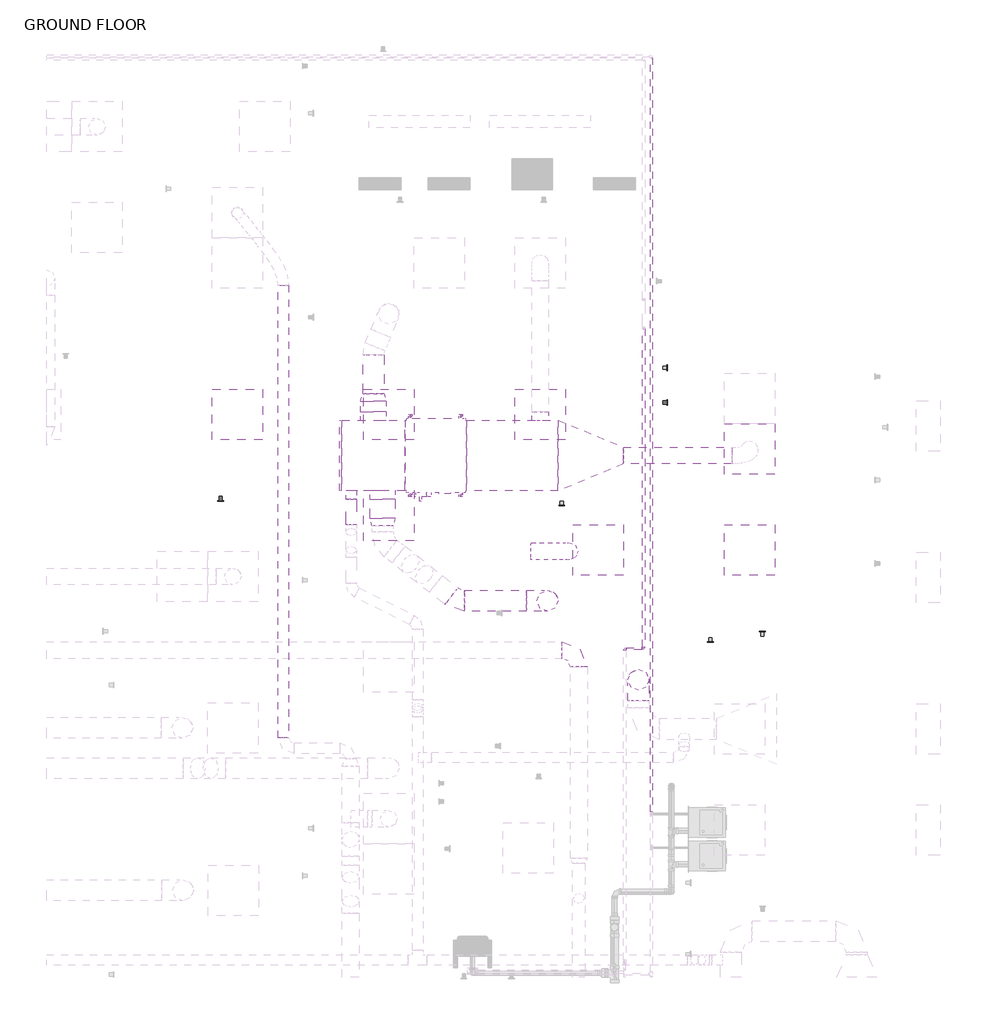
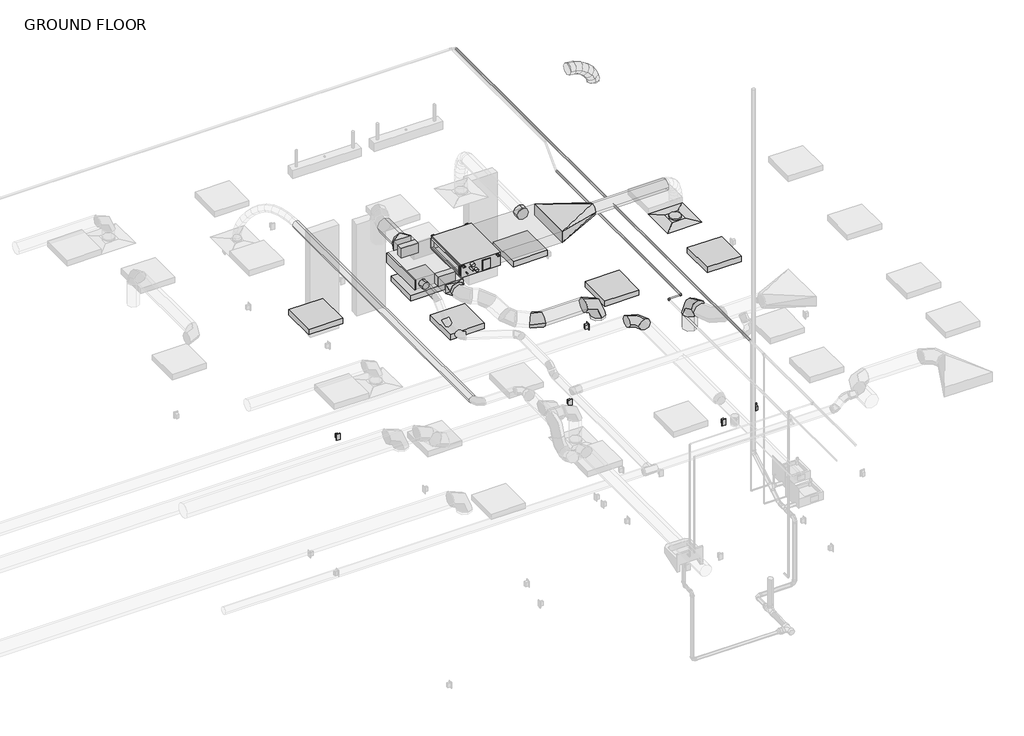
# One storey, part 19 of 21: 12 duct fittings, 12 duct segments, 6 light fixtures, 5 proxies, 3 pipe segments, 2 pipe fittings, 2 switching devices, 1 air terminal.
"""IFC4 building model written with IfcOpenShell, lengths in millimetres."""

from ifc_helpers import new_model, si_unit, point, frame, frame_2d, origin, place, context, project, spatial, polyline, circle_curve, ellipse_curve, trimmed, segment, composite_curve, outline, extrude, transform, mapped, element, save
from ifc_brep_helpers import plane_surface, cylinder_surface, advanced_brep
from components import air_terminal_e9020785, mechanical_equipment_7e022f85, duplex_receptacle_countertop_10251bba, rectangular_endcap_standard_66f4b2b8, rectangular_takeoff_standard_a8f316fd, rectangular_to_round_transition_angle_45_degree_0bd342e9, rectangular_to_round_transition_angle_45_degree_09297cf0, round_elbow_1_d_f2406e55, round_elbow_1_d_a253342a, round_elbow_1_d_6fec3262, round_takeoff_standard_1127d77f, round_takeoff_standard_7fe2b2d5, troffer_corner_insert_2x2_3lamp_e67c7f8f, elbow_generic_standard_c06ac706

model = new_model("IFC4")

# Units and contexts
model_context = context("Model", 3, world=origin())
ifc_project = project(units=[si_unit("LENGTHUNIT", "METRE", prefix="MILLI")], contexts=[model_context])

# Site, building, storey
site = spatial("IfcSite", under=ifc_project)
building = spatial("IfcBuilding", under=site)
storey = spatial("IfcBuildingStorey", under=building, Name="GROUND FLOOR", Elevation=30480.0)

# Air terminal
placement = place(None, origin())
air_terminal_shape = air_terminal_e9020785(model_context)
element("IfcAirTerminal", 1, ObjectType="Supply Diffuser - Rectangular Face Round Neck - Hosted : 24\"x24\" Face 8\" Neck - Hosted", at=placement, inside=storey, context=model_context, shape_type="MappedRepresentation", body=[
    mapped(air_terminal_shape, transform((14567.8545393, 2918.8195005, 33223.2), x_axis=(0.0, -1.0, 0.0), y_axis=(-1.0, 0.0, 0.0), z_axis=(0.0, 0.0, -1.0))),
])

# Proxies
mechanical_equipment_shape = mechanical_equipment_7e022f85(model_context)
element("IfcBuildingElementProxy", 2, Name="PEFY-P-NMAU-E_Medium_Static_Ducted : PEFY-P18NMAU-E", ObjectType="PEFY-P-NMAU-E_Medium_Static_Ducted : PEFY-P18NMAU-E", at=placement, inside=storey, context=model_context, shape_type="MappedRepresentation", body=[
    mapped(mechanical_equipment_shape, transform((10724.1343566, 2831.884404, 33832.8), x_axis=(0.0, -1.0, 0.0), y_axis=(1.0, 0.0, 0.0), z_axis=(0.0, 0.0, 1.0))),
])
duplex_receptacle_countertop_shape = duplex_receptacle_countertop_10251bba(model_context)
element("IfcBuildingElementProxy", 3, Name="Duplex Receptacle : Standard", ObjectType="Duplex Receptacle : Standard", at=placement, inside=storey, context=model_context, shape_type="MappedRepresentation", body=[
    mapped(duplex_receptacle_countertop_shape, transform((12301.5341357, 2239.3695005, 30937.2), x_axis=(1.0, 0.0, 0.0), y_axis=(0.0, 0.0, 1.0), z_axis=(0.0, -1.0, 0.0))),
])
element("IfcBuildingElementProxy", 4, Name="Duplex Receptacle : Standard", ObjectType="Duplex Receptacle : Standard", at=placement, inside=storey, context=model_context, shape_type="MappedRepresentation", body=[
    mapped(duplex_receptacle_countertop_shape, transform((14723.7149264, 715.3695005, 30937.2), x_axis=(-1.0, 0.0, 0.0), y_axis=(0.0, 0.0, 1.0), z_axis=(0.0, 1.0, 0.0))),
])
element("IfcBuildingElementProxy", 5, Name="Duplex Receptacle : Standard", ObjectType="Duplex Receptacle : Standard", at=placement, inside=storey, context=model_context, shape_type="MappedRepresentation", body=[
    mapped(duplex_receptacle_countertop_shape, transform((13574.0795393, 3902.2763697, 30937.2), x_axis=(0.0, 1.0, 0.0), y_axis=(0.0, 0.0, 1.0), z_axis=(1.0, 0.0, 0.0))),
])
element("IfcBuildingElementProxy", 6, Name="Duplex Receptacle : Standard", ObjectType="Duplex Receptacle : Standard", at=placement, inside=storey, context=model_context, shape_type="MappedRepresentation", body=[
    mapped(duplex_receptacle_countertop_shape, transform((14097.4622755, 591.5445005, 30937.2), x_axis=(1.0, 0.0, 0.0), y_axis=(0.0, 0.0, 1.0), z_axis=(0.0, -1.0, 0.0))),
])

# Duct fittings
rectangular_endcap_standard_shape = rectangular_endcap_standard_66f4b2b8(model_context)
element("IfcDuctFitting", 7, ObjectType="Rectangular Endcap : Standard", at=placement, inside=storey, context=model_context, shape_type="MappedRepresentation", body=[
    mapped(rectangular_endcap_standard_shape, transform((9644.6343566, 2841.896647, 33992.34375), x_axis=(-1.0, 0.0, 0.0), y_axis=(0.0, -1.0, 0.0), z_axis=(0.0, 0.0, 1.0))),
])
rectangular_takeoff_standard_shape = rectangular_takeoff_standard_a8f316fd(model_context)
element("IfcDuctFitting", 8, ObjectType="Rectangular Takeoff : Standard", at=placement, inside=storey, context=model_context, shape_type="MappedRepresentation", body=[
    mapped(rectangular_takeoff_standard_shape, transform((10137.7468891, 2414.065397, 33992.34375), x_axis=(0.0, -1.0, 0.0), y_axis=(-1.0, 0.0, 0.0), z_axis=(0.0, 0.0, -1.0))),
])
element("IfcDuctFitting", 9, ObjectType="Rectangular Takeoff : Standard", at=placement, inside=storey, context=model_context, shape_type="MappedRepresentation", body=[
    mapped(rectangular_takeoff_standard_shape, transform((10025.6343566, 3269.727897, 33992.34375), x_axis=(0.0, 1.0, 0.0), y_axis=(1.0, 0.0, 0.0), z_axis=(0.0, 0.0, -1.0))),
])
rectangular_to_round_transition_angle_45_degree_shape = rectangular_to_round_transition_angle_45_degree_0bd342e9(model_context)
element("IfcDuctFitting", 10, ObjectType="Rectangular to Round Transition - Angle : 45 Degree", at=placement, inside=storey, context=model_context, shape_type="MappedRepresentation", body=[
    mapped(rectangular_to_round_transition_angle_45_degree_shape, transform((10137.7468891, 2083.865397, 33992.34375), x_axis=(0.0, -1.0, 0.0), y_axis=(1.0, 0.0, 0.0), z_axis=(0.0, 0.0, 1.0))),
])
element("IfcDuctFitting", 11, ObjectType="Rectangular to Round Transition - Angle : 45 Degree", at=placement, inside=storey, context=model_context, shape_type="MappedRepresentation", body=[
    mapped(rectangular_to_round_transition_angle_45_degree_shape, transform((10025.6343566, 3498.327897, 33992.34375), x_axis=(0.0, 1.0, 0.0), y_axis=(-1.0, 0.0, 0.0), z_axis=(0.0, 0.0, 1.0))),
])
rectangular_to_round_transition_angle_45_degree_2_shape = rectangular_to_round_transition_angle_45_degree_09297cf0(model_context)
element("IfcDuctFitting", 12, ObjectType="Rectangular to Round Transition - Angle : 45 Degree", at=placement, inside=storey, context=model_context, shape_type="MappedRepresentation", body=[
    mapped(rectangular_to_round_transition_angle_45_degree_2_shape, transform((12257.9936831, 2841.896647, 33978.85), x_axis=(1.0, 0.0, 0.0), y_axis=(0.0, 1.0, 0.0), z_axis=(0.0, 0.0, 1.0))),
])
round_elbow_1_d_shape = round_elbow_1_d_f2406e55(model_context)
element("IfcDuctFitting", 13, ObjectType="Round Elbow : 1 D", at=placement, inside=storey, context=model_context, shape_type="MappedRepresentation", body=[
    mapped(round_elbow_1_d_shape, transform((11037.2545393, 1090.0195005, 33629.6), x_axis=(0.7856705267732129, -0.6186451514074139, 0.0), y_axis=(0.6186451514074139, 0.7856705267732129, 0.0), z_axis=(0.0, 0.0, 1.0))),
])
round_elbow_1_d_2_shape = round_elbow_1_d_a253342a(model_context)
element("IfcDuctFitting", 14, ObjectType="Round Elbow : 1 D", at=placement, inside=storey, context=model_context, shape_type="MappedRepresentation", body=[
    mapped(round_elbow_1_d_2_shape, transform((12507.2795393, 493.3414929, 33528.0), x_axis=(0.0, 1.0, 0.0), y_axis=(-1.0, 0.0, 0.0), z_axis=(0.0, 0.0, 1.0))),
])
round_elbow_1_d_3_shape = round_elbow_1_d_6fec3262(model_context)
element("IfcDuctFitting", 15, ObjectType="Round Elbow : 1 D", at=placement, inside=storey, context=model_context, shape_type="MappedRepresentation", body=[
    mapped(round_elbow_1_d_3_shape, transform((12129.4545393, 1090.0195005, 33629.6), x_axis=(0.0, 0.0, 1.0), y_axis=(-1.0, 0.0, 0.0), z_axis=(0.0, -1.0, 0.0))),
])
element("IfcDuctFitting", 16, ObjectType="Round Elbow : 1 D", at=placement, inside=storey, context=model_context, shape_type="MappedRepresentation", body=[
    mapped(round_elbow_1_d_3_shape, transform((13229.5920393, 134.3445005, 33846.29375), x_axis=(0.0, 0.0, 1.0), y_axis=(0.0, -1.0, 0.0), z_axis=(1.0, 0.0, 0.0))),
])
round_takeoff_standard_shape = round_takeoff_standard_1127d77f(model_context)
element("IfcDuctFitting", 17, ObjectType="Round Takeoff : Standard", at=placement, inside=storey, context=model_context, shape_type="MappedRepresentation", body=[
    mapped(round_takeoff_standard_shape, transform((12040.5545393, 3269.727897, 33978.85), x_axis=(0.0, 1.0, 0.0), y_axis=(1.0, 0.0, 0.0), z_axis=(0.0, 0.0, -1.0))),
])
round_takeoff_standard_2_shape = round_takeoff_standard_7fe2b2d5(model_context)
element("IfcDuctFitting", 18, ObjectType="Round Takeoff : Standard", at=placement, inside=storey, context=model_context, shape_type="MappedRepresentation", body=[
    mapped(round_takeoff_standard_2_shape, transform((9756.9865694, 2414.065397, 33992.34375), x_axis=(0.0, -1.0, 0.0), y_axis=(-1.0, 0.0, 0.0), z_axis=(0.0, 0.0, -1.0))),
])

# Duct segments
element("IfcDuctSegment", 19, ObjectType="Flex - Round", at=placement, inside=storey, context=model_context, shape_type="AdvancedBrep", body=[
    advanced_brep(
    [(11929.4295393, 1788.5195005, 37712.65), (11929.4295393, 1686.9195005, 37611.05), (11929.4295393, 1585.3195005, 37712.65), (11929.4295393, 1686.9195005, 37814.25), (11942.8770973, 1788.5195005, 37712.65), (11935.1214914, 1686.9195005, 37611.05), (11942.8770973, 1585.3195005, 37712.65), (11950.6327032, 1686.9195005, 37814.25), (12392.9795393, 1788.5195005, 37341.175), (12494.5795393, 1686.9195005, 37341.175), (12392.9795393, 1585.3195005, 37341.175), (12291.3795393, 1686.9195005, 37341.175), (12032.5201106, 1788.5195005, 37698.8840402), (12007.0675218, 1686.9195005, 37600.0016636), (12032.5201106, 1585.3195005, 37698.8840402), (12057.9726995, 1686.9195005, 37797.7664167), (12137.6136928, 1788.5195005, 37660.3439286), (12093.4253019, 1686.9195005, 37568.3323798), (12137.6136928, 1585.3195005, 37660.3439286), (12181.8020838, 1686.9195005, 37752.3554774), (12235.4583563, 1788.5195005, 37601.166317), (12173.9191675, 1686.9195005, 37519.6487364), (12235.4583563, 1585.3195005, 37601.166317), (12296.9975452, 1686.9195005, 37682.6838977), (12316.8021716, 1788.5195005, 37525.4878572), (12237.9377792, 1686.9195005, 37460.0888311), (12316.8021716, 1585.3195005, 37525.4878572), (12395.666564, 1686.9195005, 37590.8868834), (12372.3932091, 1788.5195005, 37437.445201), (12278.4147005, 1686.9195005, 37395.9832517), (12372.3932091, 1585.3195005, 37437.445201), (12466.3717177, 1686.9195005, 37478.9071503), (12392.9795393, 1788.5195005, 37362.4207258), (12291.3795393, 1686.9195005, 37348.7344116), (12392.9795393, 1585.3195005, 37362.4207258), (12494.5795393, 1686.9195005, 37376.10704)],
    [
        (0, 1, circle_curve(frame((11929.4295393, 1686.9195005, 37712.65), z_axis=(-1.0, 0.0, 0.0), x_axis=(0.0, 1.0, 0.0)), 101.6)),
        (1, 2, circle_curve(frame((11929.4295393, 1686.9195005, 37712.65), z_axis=(-1.0, 0.0, 0.0), x_axis=(0.0, 1.0, 0.0)), 101.6)),
        (2, 3, circle_curve(frame((11929.4295393, 1686.9195005, 37712.65), z_axis=(-1.0, 0.0, 0.0), x_axis=(0.0, 1.0, 0.0)), 101.6)),
        (3, 0, circle_curve(frame((11929.4295393, 1686.9195005, 37712.65), z_axis=(-1.0, 0.0, 0.0), x_axis=(0.0, 1.0, 0.0)), 101.6)),
        (0, 4),
        (4, 5, ellipse_curve(frame((11942.8770973, 1686.9195005, 37712.65), z_axis=(-0.9970991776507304, 0.0, 0.07611327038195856), x_axis=(-0.07611327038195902, 0.0, -0.9970991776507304)), 101.895581, 101.6)),
        (5, 1),
        (5, 6, ellipse_curve(frame((11942.8770973, 1686.9195005, 37712.65), z_axis=(-0.9970991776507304, 0.0, 0.07611327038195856), x_axis=(-0.07611327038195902, 0.0, -0.9970991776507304)), 101.895581, 101.6)),
        (6, 2),
        (6, 7, ellipse_curve(frame((11942.8770973, 1686.9195005, 37712.65), z_axis=(-0.9970991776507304, 0.0, 0.07611327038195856), x_axis=(-0.07611327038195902, 0.0, -0.9970991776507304)), 101.895581, 101.6)),
        (7, 3),
        (7, 4, ellipse_curve(frame((11942.8770973, 1686.9195005, 37712.65), z_axis=(-0.9970991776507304, 0.0, 0.07611327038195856), x_axis=(-0.07611327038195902, 0.0, -0.9970991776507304)), 101.895581, 101.6)),
        (8, 9, circle_curve(frame((12392.9795393, 1686.9195005, 37341.175), z_axis=(0.0, 0.0, -1.0), x_axis=(0.0, 1.0, 0.0)), 101.6)),
        (9, 10, circle_curve(frame((12392.9795393, 1686.9195005, 37341.175), z_axis=(0.0, 0.0, -1.0), x_axis=(0.0, 1.0, 0.0)), 101.6)),
        (10, 11, circle_curve(frame((12392.9795393, 1686.9195005, 37341.175), z_axis=(0.0, 0.0, -1.0), x_axis=(0.0, 1.0, 0.0)), 101.6)),
        (11, 8, circle_curve(frame((12392.9795393, 1686.9195005, 37341.175), z_axis=(0.0, 0.0, -1.0), x_axis=(0.0, 1.0, 0.0)), 101.6)),
        (4, 12),
        (12, 13, ellipse_curve(frame((12032.5201106, 1686.9195005, 37698.8840402), z_axis=(-0.9684322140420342, 0.0, 0.24927704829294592), x_axis=(-0.2492770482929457, 0.0, -0.9684322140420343)), 102.1056251, 101.6)),
        (13, 5),
        (13, 14, ellipse_curve(frame((12032.5201106, 1686.9195005, 37698.8840402), z_axis=(-0.9684322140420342, 0.0, 0.24927704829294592), x_axis=(-0.2492770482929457, 0.0, -0.9684322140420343)), 102.1056251, 101.6)),
        (14, 6),
        (14, 15, ellipse_curve(frame((12032.5201106, 1686.9195005, 37698.8840402), z_axis=(-0.9684322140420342, 0.0, 0.24927704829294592), x_axis=(-0.2492770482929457, 0.0, -0.9684322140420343)), 102.1056251, 101.6)),
        (15, 7),
        (15, 12, ellipse_curve(frame((12032.5201106, 1686.9195005, 37698.8840402), z_axis=(-0.9684322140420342, 0.0, 0.24927704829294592), x_axis=(-0.2492770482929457, 0.0, -0.9684322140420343)), 102.1056251, 101.6)),
        (12, 16),
        (16, 17, ellipse_curve(frame((12137.6136928, 1686.9195005, 37660.3439286), z_axis=(-0.9014357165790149, 0.0, 0.4329129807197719), x_axis=(-0.43291298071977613, 0.0, -0.9014357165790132)), 102.0722244, 101.6)),
        (17, 13),
        (17, 18, ellipse_curve(frame((12137.6136928, 1686.9195005, 37660.3439286), z_axis=(-0.9014357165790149, 0.0, 0.4329129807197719), x_axis=(-0.43291298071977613, 0.0, -0.9014357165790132)), 102.0722244, 101.6)),
        (18, 14),
        (18, 19, ellipse_curve(frame((12137.6136928, 1686.9195005, 37660.3439286), z_axis=(-0.9014357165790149, 0.0, 0.4329129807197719), x_axis=(-0.43291298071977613, 0.0, -0.9014357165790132)), 102.0722244, 101.6)),
        (19, 15),
        (19, 16, ellipse_curve(frame((12137.6136928, 1686.9195005, 37660.3439286), z_axis=(-0.9014357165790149, 0.0, 0.4329129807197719), x_axis=(-0.43291298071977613, 0.0, -0.9014357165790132)), 102.0722244, 101.6)),
        (16, 20),
        (20, 21, ellipse_curve(frame((12235.4583563, 1686.9195005, 37601.166317), z_axis=(-0.7981115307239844, 0.0, 0.6025097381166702), x_axis=(-0.6025097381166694, 0.0, -0.798111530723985)), 102.1380816, 101.6)),
        (21, 17),
        (21, 22, ellipse_curve(frame((12235.4583563, 1686.9195005, 37601.166317), z_axis=(-0.7981115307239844, 0.0, 0.6025097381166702), x_axis=(-0.6025097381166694, 0.0, -0.798111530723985)), 102.1380816, 101.6)),
        (22, 18),
        (22, 23, ellipse_curve(frame((12235.4583563, 1686.9195005, 37601.166317), z_axis=(-0.7981115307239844, 0.0, 0.6025097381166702), x_axis=(-0.6025097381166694, 0.0, -0.798111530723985)), 102.1380816, 101.6)),
        (23, 19),
        (23, 20, ellipse_curve(frame((12235.4583563, 1686.9195005, 37601.166317), z_axis=(-0.7981115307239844, 0.0, 0.6025097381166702), x_axis=(-0.6025097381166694, 0.0, -0.798111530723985)), 102.1380816, 101.6)),
        (20, 24),
        (24, 25, ellipse_curve(frame((12316.8021716, 1686.9195005, 37525.4878572), z_axis=(-0.638331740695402, 0.0, 0.7697613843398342), x_axis=(-0.769761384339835, 0.0, -0.6383317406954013)), 102.4530381, 101.6)),
        (25, 21),
        (25, 26, ellipse_curve(frame((12316.8021716, 1686.9195005, 37525.4878572), z_axis=(-0.638331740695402, 0.0, 0.7697613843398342), x_axis=(-0.769761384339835, 0.0, -0.6383317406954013)), 102.4530381, 101.6)),
        (26, 22),
        (26, 27, ellipse_curve(frame((12316.8021716, 1686.9195005, 37525.4878572), z_axis=(-0.638331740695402, 0.0, 0.7697613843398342), x_axis=(-0.769761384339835, 0.0, -0.6383317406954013)), 102.4530381, 101.6)),
        (27, 23),
        (27, 24, ellipse_curve(frame((12316.8021716, 1686.9195005, 37525.4878572), z_axis=(-0.638331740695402, 0.0, 0.7697613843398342), x_axis=(-0.769761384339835, 0.0, -0.6383317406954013)), 102.4530381, 101.6)),
        (24, 28),
        (28, 29, ellipse_curve(frame((12372.3932091, 1686.9195005, 37437.445201), z_axis=(-0.40364707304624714, 0.0, 0.9149147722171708), x_axis=(-0.9149147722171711, 0.0, -0.40364707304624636)), 102.7183202, 101.6)),
        (29, 25),
        (29, 30, ellipse_curve(frame((12372.3932091, 1686.9195005, 37437.445201), z_axis=(-0.40364707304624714, 0.0, 0.9149147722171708), x_axis=(-0.9149147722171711, 0.0, -0.40364707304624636)), 102.7183202, 101.6)),
        (30, 26),
        (30, 31, ellipse_curve(frame((12372.3932091, 1686.9195005, 37437.445201), z_axis=(-0.40364707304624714, 0.0, 0.9149147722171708), x_axis=(-0.9149147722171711, 0.0, -0.40364707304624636)), 102.7183202, 101.6)),
        (31, 27),
        (31, 28, ellipse_curve(frame((12372.3932091, 1686.9195005, 37437.445201), z_axis=(-0.40364707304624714, 0.0, 0.9149147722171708), x_axis=(-0.9149147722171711, 0.0, -0.40364707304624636)), 102.7183202, 101.6)),
        (28, 32),
        (32, 33, ellipse_curve(frame((12392.9795393, 1686.9195005, 37362.4207258), z_axis=(-0.1335019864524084, 0.0, 0.9910485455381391), x_axis=(-0.9910485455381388, 0.0, -0.13350198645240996)), 102.5176824, 101.6)),
        (33, 29),
        (33, 34, ellipse_curve(frame((12392.9795393, 1686.9195005, 37362.4207258), z_axis=(-0.1335019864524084, 0.0, 0.9910485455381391), x_axis=(-0.9910485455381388, 0.0, -0.13350198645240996)), 102.5176824, 101.6)),
        (34, 30),
        (34, 35, ellipse_curve(frame((12392.9795393, 1686.9195005, 37362.4207258), z_axis=(-0.1335019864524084, 0.0, 0.9910485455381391), x_axis=(-0.9910485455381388, 0.0, -0.13350198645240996)), 102.5176824, 101.6)),
        (35, 31),
        (35, 32, ellipse_curve(frame((12392.9795393, 1686.9195005, 37362.4207258), z_axis=(-0.1335019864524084, 0.0, 0.9910485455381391), x_axis=(-0.9910485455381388, 0.0, -0.13350198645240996)), 102.5176824, 101.6)),
        (32, 8),
        (11, 33),
        (10, 34),
        (9, 35),
    ],
    [
        plane_surface(frame((11929.4295393, 1686.9195005, 37611.05), z_axis=(-1.0, 0.0, 0.0), x_axis=(0.0, 1.0, 0.0))),
        cylinder_surface(frame((11929.4295393, 1686.9195005, 37712.65), z_axis=(-1.0, 0.0, 0.0), x_axis=(0.0, 1.0, 0.0)), 101.6),
        plane_surface(frame((12392.9795393, 1585.3195005, 37341.175), z_axis=(0.0, 0.0, -1.0), x_axis=(-1.0, 0.0, 0.0))),
        cylinder_surface(frame((11942.8770973, 1686.9195005, 37712.65), z_axis=(-0.9884135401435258, 0.0, 0.15178495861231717), x_axis=(0.0, 1.0, 0.0)), 101.6),
        cylinder_surface(frame((12032.5201106, 1686.9195005, 37698.8840402), z_axis=(-0.9388595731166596, 0.0, 0.3443003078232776), x_axis=(0.0, 1.0, 0.0)), 101.6),
        cylinder_surface(frame((12137.6136928, 1686.9195005, 37660.3439286), z_axis=(-0.8556710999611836, 0.0, 0.5175200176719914), x_axis=(0.0, 1.0, 0.0)), 101.6),
        cylinder_surface(frame((12235.4583563, 1686.9195005, 37601.166317), z_axis=(-0.7321427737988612, 0.0, 0.6811512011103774), x_axis=(0.0, 1.0, 0.0)), 101.6),
        cylinder_surface(frame((12316.8021716, 1686.9195005, 37525.4878572), z_axis=(-0.5338910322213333, 0.0, 0.8455532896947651), x_axis=(0.0, 1.0, 0.0)), 101.6),
        cylinder_surface(frame((12372.3932091, 1686.9195005, 37437.445201), z_axis=(-0.2646138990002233, 0.0, 0.9643544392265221), x_axis=(0.0, 1.0, 0.0)), 101.6),
        cylinder_surface(frame((12392.9795393, 1686.9195005, 37362.4207258), z_axis=(0.0, 0.0, 1.0), x_axis=(0.0, 1.0, 0.0)), 101.6),
    ],
    [
        (0, [[1, 2, 3, 4]]),
        (1, [[-1, 5, 6, 7]]),
        (1, [[-2, -7, 8, 9]]),
        (1, [[-3, -9, 10, 11]]),
        (1, [[-4, -11, 12, -5]]),
        (2, [[13, 14, 15, 16]]),
        (3, [[-6, 17, 18, 19]]),
        (3, [[-8, -19, 20, 21]]),
        (3, [[-10, -21, 22, 23]]),
        (3, [[-12, -23, 24, -17]]),
        (4, [[-18, 25, 26, 27]]),
        (4, [[-20, -27, 28, 29]]),
        (4, [[-22, -29, 30, 31]]),
        (4, [[-24, -31, 32, -25]]),
        (5, [[-26, 33, 34, 35]]),
        (5, [[-28, -35, 36, 37]]),
        (5, [[-30, -37, 38, 39]]),
        (5, [[-32, -39, 40, -33]]),
        (6, [[-34, 41, 42, 43]]),
        (6, [[-36, -43, 44, 45]]),
        (6, [[-38, -45, 46, 47]]),
        (6, [[-40, -47, 48, -41]]),
        (7, [[-42, 49, 50, 51]]),
        (7, [[-44, -51, 52, 53]]),
        (7, [[-46, -53, 54, 55]]),
        (7, [[-48, -55, 56, -49]]),
        (8, [[-50, 57, 58, 59]]),
        (8, [[-52, -59, 60, 61]]),
        (8, [[-54, -61, 62, 63]]),
        (8, [[-56, -63, 64, -57]]),
        (9, [[-58, 65, -16, 66]]),
        (9, [[-60, -66, -15, 67]]),
        (9, [[-62, -67, -14, 68]]),
        (9, [[-64, -68, -13, -65]]),
    ],
),
])
element("IfcDuctSegment", 20, ObjectType="Mitered Elbows / Taps", at=placement, inside=storey, context=model_context, shape_type="SweptSolid", body=[
    extrude(outline(polyline([(9985.3468891, 2312.465397), (10290.1468891, 2312.465397), (10290.1468891, 2083.865397), (9985.3468891, 2083.865397), (9985.3468891, 2312.465397)])), frame((0.0, 0.0, 33903.44375), z_axis=(0.0, 0.0, 1.0), x_axis=(1.0, 0.0, 0.0)), (0.0, 0.0, 1.0), 177.8),
])
element("IfcDuctSegment", 21, ObjectType="Mitered Elbows / Taps", at=placement, inside=storey, context=model_context, shape_type="SweptSolid", body=[
    extrude(outline(polyline([(10178.0343566, 3371.327897), (9873.2343566, 3371.327897), (9873.2343566, 3498.327897), (10178.0343566, 3498.327897), (10178.0343566, 3371.327897)])), frame((0.0, 0.0, 33903.44375), z_axis=(0.0, 0.0, 1.0), x_axis=(1.0, 0.0, 0.0)), (0.0, 0.0, 1.0), 177.8),
])
element("IfcDuctSegment", 22, ObjectType="Mitered Elbows / Taps", at=placement, inside=storey, context=model_context, shape_type="SweptSolid", body=[
    extrude(outline(polyline([(11152.7593566, 2414.065397), (11152.7593566, 3269.727897), (12257.9936831, 3269.727897), (12257.9936831, 2414.065397), (11152.7593566, 2414.065397)])), frame((0.0, 0.0, 33875.6625), z_axis=(0.0, 0.0, 1.0), x_axis=(1.0, 0.0, 0.0)), (0.0, 0.0, 1.0), 206.375),
])
element("IfcDuctSegment", 23, ObjectType="Mitered Elbows / Tees", at=placement, inside=storey, context=model_context, shape_type="SweptSolid", body=[
    extrude(outline(polyline([(10406.6343566, 3269.727897), (10406.6343566, 2414.065397), (9644.6343566, 2414.065397), (9644.6343566, 3269.727897), (10406.6343566, 3269.727897)])), frame((0.0, 0.0, 33902.65), z_axis=(0.0, 0.0, 1.0), x_axis=(1.0, 0.0, 0.0)), (0.0, 0.0, 1.0), 179.3875),
])
element("IfcDuctSegment", 24, ObjectType="Taps / Short Radius", at=placement, inside=storey, context=model_context, shape_type="SweptSolid", body=[
    extrude(outline(composite_curve([segment(trimmed(circle_curve(frame_2d((33877.25, 8938.5795393)), 63.5), [point((33877.25, 9002.0795393))], [point((33940.75, 8938.5795393))], False, "CARTESIAN"), True, "CONTINUOUS"), segment(trimmed(circle_curve(frame_2d((33877.25, 8938.5795393)), 63.5), [point((33940.75, 8938.5795393))], [point((33877.25, 8875.0795393))], False, "CARTESIAN"), True, "CONTINUOUS"), segment(trimmed(circle_curve(frame_2d((33877.25, 8938.5795393)), 63.5), [point((33877.25, 8875.0795393))], [point((33813.75, 8938.5795393))], False, "CARTESIAN"), True, "CONTINUOUS"), segment(trimmed(circle_curve(frame_2d((33877.25, 8938.5795393)), 63.5), [point((33813.75, 8938.5795393))], [point((33877.25, 9002.0795393))], False, "CARTESIAN"), True, "CONTINUOUS")], self_intersect=False)), frame((0.0, -564.6850038, 0.0), z_axis=(0.0, 1.0, 0.0), x_axis=(0.0, 0.0, 1.0)), (0.0, 0.0, 1.0), 5461.0),
])
element("IfcDuctSegment", 25, ObjectType="Taps / Short Radius", at=placement, inside=storey, context=model_context, shape_type="SweptSolid", body=[
    extrude(outline(composite_curve([segment(trimmed(circle_curve(frame_2d((33992.34375, 9756.9865694)), 63.5), [point((33992.34375, 9693.4865694))], [point((33928.84375, 9756.9865694))], False, "CARTESIAN"), True, "CONTINUOUS"), segment(trimmed(circle_curve(frame_2d((33992.34375, 9756.9865694)), 63.5), [point((33928.84375, 9756.9865694))], [point((33992.34375, 9820.4865694))], False, "CARTESIAN"), True, "CONTINUOUS"), segment(trimmed(circle_curve(frame_2d((33992.34375, 9756.9865694)), 63.5), [point((33992.34375, 9820.4865694))], [point((34055.84375, 9756.9865694))], False, "CARTESIAN"), True, "CONTINUOUS"), segment(trimmed(circle_curve(frame_2d((33992.34375, 9756.9865694)), 63.5), [point((34055.84375, 9756.9865694))], [point((33992.34375, 9693.4865694))], False, "CARTESIAN"), True, "CONTINUOUS")], self_intersect=False)), frame((0.0, 2008.5809665, 0.0), z_axis=(0.0, 1.0, 0.0), x_axis=(0.0, 0.0, 1.0)), (0.0, 0.0, 1.0), 303.8844305),
])
element("IfcDuctSegment", 26, ObjectType="Taps / Short Radius", at=placement, inside=storey, context=model_context, shape_type="SweptSolid", body=[
    extrude(outline(composite_curve([segment(trimmed(circle_curve(frame_2d((33992.34375, 10025.6343566)), 127.0), [point((33992.34375, 10152.6343566))], [point((34119.34375, 10025.6343566))], False, "CARTESIAN"), True, "CONTINUOUS"), segment(trimmed(circle_curve(frame_2d((33992.34375, 10025.6343566)), 127.0), [point((34119.34375, 10025.6343566))], [point((33992.34375, 9898.6343566))], False, "CARTESIAN"), True, "CONTINUOUS"), segment(trimmed(circle_curve(frame_2d((33992.34375, 10025.6343566)), 127.0), [point((33992.34375, 9898.6343566))], [point((33865.34375, 10025.6343566))], False, "CARTESIAN"), True, "CONTINUOUS"), segment(trimmed(circle_curve(frame_2d((33992.34375, 10025.6343566)), 127.0), [point((33865.34375, 10025.6343566))], [point((33992.34375, 10152.6343566))], False, "CARTESIAN"), True, "CONTINUOUS")], self_intersect=False)), frame((0.0, 3590.3094337, 0.0), z_axis=(0.0, 1.0, 0.0), x_axis=(0.0, 0.0, 1.0)), (0.0, 0.0, 1.0), 466.7478413),
])
element("IfcDuctSegment", 27, ObjectType="Taps / Short Radius", at=placement, inside=storey, context=model_context, shape_type="SweptSolid", body=[
    extrude(outline(composite_curve([segment(trimmed(circle_curve(frame_2d((2841.896647, 33978.85)), 101.6), [point((2943.496647, 33978.85))], [point((2841.896647, 33877.25))], False, "CARTESIAN"), True, "CONTINUOUS"), segment(trimmed(circle_curve(frame_2d((2841.896647, 33978.85)), 101.6), [point((2841.896647, 33877.25))], [point((2740.296647, 33978.85))], False, "CARTESIAN"), True, "CONTINUOUS"), segment(trimmed(circle_curve(frame_2d((2841.896647, 33978.85)), 101.6), [point((2740.296647, 33978.85))], [point((2841.896647, 34080.45))], False, "CARTESIAN"), True, "CONTINUOUS"), segment(trimmed(circle_curve(frame_2d((2841.896647, 33978.85)), 101.6), [point((2841.896647, 34080.45))], [point((2943.496647, 33978.85))], False, "CARTESIAN"), True, "CONTINUOUS")], self_intersect=False)), frame((13045.5855914, 0.0, 0.0), z_axis=(1.0, 0.0, 0.0), x_axis=(0.0, 1.0, 0.0)), (0.0, 0.0, 1.0), 1309.5439479),
])
element("IfcDuctSegment", 28, ObjectType="Taps / Short Radius", at=placement, inside=storey, context=model_context, shape_type="SweptSolid", body=[
    extrude(outline(composite_curve([segment(trimmed(circle_curve(frame_2d((1090.0195005, 33629.6)), 127.0), [point((1217.0195005, 33629.6))], [point((1090.0195005, 33502.6))], False, "CARTESIAN"), True, "CONTINUOUS"), segment(trimmed(circle_curve(frame_2d((1090.0195005, 33629.6)), 127.0), [point((1090.0195005, 33502.6))], [point((963.0195005, 33629.6))], False, "CARTESIAN"), True, "CONTINUOUS"), segment(trimmed(circle_curve(frame_2d((1090.0195005, 33629.6)), 127.0), [point((963.0195005, 33629.6))], [point((1090.0195005, 33756.6))], False, "CARTESIAN"), True, "CONTINUOUS"), segment(trimmed(circle_curve(frame_2d((1090.0195005, 33629.6)), 127.0), [point((1090.0195005, 33756.6))], [point((1217.0195005, 33629.6))], False, "CARTESIAN"), True, "CONTINUOUS")], self_intersect=False)), frame((11125.252782, 0.0, 0.0), z_axis=(1.0, 0.0, 0.0), x_axis=(0.0, 1.0, 0.0)), (0.0, 0.0, 1.0), 750.2017573),
])
element("IfcDuctSegment", 29, ObjectType="Taps / Short Radius", at=placement, inside=storey, context=model_context, shape_type="SweptSolid", body=[
    extrude(outline(composite_curve([segment(trimmed(circle_curve(frame_2d((12129.4545393, 1090.0195005)), 127.0), [point((12129.4545393, 1217.0195005))], [point((12256.4545393, 1090.0195005))], False, "CARTESIAN"), True, "CONTINUOUS"), segment(trimmed(circle_curve(frame_2d((12129.4545393, 1090.0195005)), 127.0), [point((12256.4545393, 1090.0195005))], [point((12129.4545393, 963.0195005))], False, "CARTESIAN"), True, "CONTINUOUS"), segment(trimmed(circle_curve(frame_2d((12129.4545393, 1090.0195005)), 127.0), [point((12129.4545393, 963.0195005))], [point((12002.4545393, 1090.0195005))], False, "CARTESIAN"), True, "CONTINUOUS"), segment(trimmed(circle_curve(frame_2d((12129.4545393, 1090.0195005)), 127.0), [point((12002.4545393, 1090.0195005))], [point((12129.4545393, 1217.0195005))], False, "CARTESIAN"), True, "CONTINUOUS")], self_intersect=False)), frame((0.0, 0.0, 33324.8), z_axis=(0.0, 0.0, 1.0), x_axis=(1.0, 0.0, 0.0)), (0.0, 0.0, 1.0), 50.8),
])
element("IfcDuctSegment", 30, ObjectType="Taps / Short Radius", at=placement, inside=storey, context=model_context, shape_type="SweptSolid", body=[
    extrude(outline(composite_curve([segment(trimmed(circle_curve(frame_2d((13229.5920393, 134.3445005)), 127.0), [point((13102.5920393, 134.3445005))], [point((13229.5920393, 261.3445005))], False, "CARTESIAN"), True, "CONTINUOUS"), segment(trimmed(circle_curve(frame_2d((13229.5920393, 134.3445005)), 127.0), [point((13229.5920393, 261.3445005))], [point((13356.5920393, 134.3445005))], False, "CARTESIAN"), True, "CONTINUOUS"), segment(trimmed(circle_curve(frame_2d((13229.5920393, 134.3445005)), 127.0), [point((13356.5920393, 134.3445005))], [point((13229.5920393, 7.3445005))], False, "CARTESIAN"), True, "CONTINUOUS"), segment(trimmed(circle_curve(frame_2d((13229.5920393, 134.3445005)), 127.0), [point((13229.5920393, 7.3445005))], [point((13102.5920393, 134.3445005))], False, "CARTESIAN"), True, "CONTINUOUS")], self_intersect=False)), frame((0.0, 0.0, 33324.8), z_axis=(0.0, 0.0, 1.0), x_axis=(1.0, 0.0, 0.0)), (0.0, 0.0, 1.0), 267.49375),
])

# Light fixtures
troffer_corner_insert_2x2_3lamp_shape = troffer_corner_insert_2x2_3lamp_e67c7f8f(model_context)
element("IfcLightFixture", 31, ObjectType="Troffer Corner Insert : 2x2 3Lamp", at=placement, inside=storey, context=model_context, shape_type="MappedRepresentation", body=[
    mapped(troffer_corner_insert_2x2_3lamp_shape, transform((8382.9545393, 3334.7445005, 30784.8), x_axis=(1.0, 0.0, 0.0), y_axis=(0.0, 1.0, 0.0), z_axis=(0.0, 0.0, 1.0))),
])
element("IfcLightFixture", 32, ObjectType="Troffer Corner Insert : 2x2 3Lamp", at=placement, inside=storey, context=model_context, shape_type="MappedRepresentation", body=[
    mapped(troffer_corner_insert_2x2_3lamp_shape, transform((10211.7545393, 3334.7445005, 30784.8), x_axis=(1.0, 0.0, 0.0), y_axis=(0.0, 1.0, 0.0), z_axis=(0.0, 0.0, 1.0))),
])
element("IfcLightFixture", 33, ObjectType="Troffer Corner Insert : 2x2 3Lamp", at=placement, inside=storey, context=model_context, shape_type="MappedRepresentation", body=[
    mapped(troffer_corner_insert_2x2_3lamp_shape, transform((12040.5545393, 3334.7445005, 30784.8), x_axis=(1.0, 0.0, 0.0), y_axis=(0.0, 1.0, 0.0), z_axis=(0.0, 0.0, 1.0))),
])
element("IfcLightFixture", 34, ObjectType="Troffer Corner Insert : 2x2 3Lamp", at=placement, inside=storey, context=model_context, shape_type="MappedRepresentation", body=[
    mapped(troffer_corner_insert_2x2_3lamp_shape, transform((12739.0545393, 1699.6195005, 30784.8), x_axis=(1.0, 0.0, 0.0), y_axis=(0.0, 1.0, 0.0), z_axis=(0.0, 0.0, 1.0))),
])
element("IfcLightFixture", 35, ObjectType="Troffer Corner Insert : 2x2 3Lamp", at=placement, inside=storey, context=model_context, shape_type="MappedRepresentation", body=[
    mapped(troffer_corner_insert_2x2_3lamp_shape, transform((14567.8545393, 1699.6195005, 30784.8), x_axis=(1.0, 0.0, 0.0), y_axis=(0.0, 1.0, 0.0), z_axis=(0.0, 0.0, 1.0))),
])
element("IfcLightFixture", 36, ObjectType="Troffer Corner Insert : 2x2 3Lamp", at=placement, inside=storey, context=model_context, shape_type="MappedRepresentation", body=[
    mapped(troffer_corner_insert_2x2_3lamp_shape, transform((10211.7545393, 2115.5445005, 30784.8), x_axis=(1.0, 0.0, 0.0), y_axis=(0.0, 1.0, 0.0), z_axis=(0.0, 0.0, 1.0))),
])

# Pipe fittings
elbow_generic_standard_shape = elbow_generic_standard_c06ac706(model_context)
element("IfcPipeFitting", 37, ObjectType="Elbow - Generic : Standard", at=placement, inside=storey, context=model_context, shape_type="MappedRepresentation", body=[
    mapped(elbow_generic_standard_shape, transform((13289.5512041, 509.8310166, 33680.4), x_axis=(1.0, 0.0, 0.0), y_axis=(0.0, 1.0, 0.0), z_axis=(0.0, 0.0, 1.0))),
])
element("IfcPipeFitting", 38, ObjectType="Elbow - Generic : Standard", at=placement, inside=storey, context=model_context, shape_type="MappedRepresentation", body=[
    mapped(elbow_generic_standard_shape, transform((13060.9512041, 509.8310166, 33680.4), x_axis=(-1.0, 0.0, 0.0), y_axis=(0.0, -1.0, 0.0), z_axis=(0.0, 0.0, 1.0))),
])

# Pipe segments
element("IfcPipeSegment", 39, ObjectType="Copper", at=placement, inside=storey, context=model_context, shape_type="SweptSolid", body=[
    extrude(outline(composite_curve([segment(trimmed(circle_curve(frame_2d((33978.2831664, 13383.5569177)), 14.2875), [point((33978.2831664, 13369.2694177))], [point((33963.9956664, 13383.5569177))], False, "CARTESIAN"), True, "CONTINUOUS"), segment(trimmed(circle_curve(frame_2d((33978.2831664, 13383.5569177)), 14.2875), [point((33963.9956664, 13383.5569177))], [point((33978.2831664, 13397.8444177))], False, "CARTESIAN"), True, "CONTINUOUS"), segment(trimmed(circle_curve(frame_2d((33978.2831664, 13383.5569177)), 14.2875), [point((33978.2831664, 13397.8444177))], [point((33992.5706664, 13383.5569177))], False, "CARTESIAN"), True, "CONTINUOUS"), segment(trimmed(circle_curve(frame_2d((33978.2831664, 13383.5569177)), 14.2875), [point((33992.5706664, 13383.5569177))], [point((33978.2831664, 13369.2694177))], False, "CARTESIAN"), True, "CONTINUOUS")], self_intersect=False)), frame((0.0, -1457.9179995, 0.0), z_axis=(0.0, 1.0, 0.0), x_axis=(0.0, 0.0, 1.0)), (0.0, 0.0, 1.0), 9102.3398513),
])
element("IfcPipeSegment", 40, ObjectType="Copper", at=placement, inside=storey, context=model_context, shape_type="SweptSolid", body=[
    extrude(outline(composite_curve([segment(trimmed(circle_curve(frame_2d((33680.4, 13289.5512041)), 14.2875), [point((33680.4, 13275.2637041))], [point((33666.1125, 13289.5512041))], False, "CARTESIAN"), True, "CONTINUOUS"), segment(trimmed(circle_curve(frame_2d((33680.4, 13289.5512041)), 14.2875), [point((33666.1125, 13289.5512041))], [point((33680.4, 13303.8387041))], False, "CARTESIAN"), True, "CONTINUOUS"), segment(trimmed(circle_curve(frame_2d((33680.4, 13289.5512041)), 14.2875), [point((33680.4, 13303.8387041))], [point((33694.6875, 13289.5512041))], False, "CARTESIAN"), True, "CONTINUOUS"), segment(trimmed(circle_curve(frame_2d((33680.4, 13289.5512041)), 14.2875), [point((33694.6875, 13289.5512041))], [point((33680.4, 13275.2637041))], False, "CARTESIAN"), True, "CONTINUOUS")], self_intersect=False)), frame((0.0, 530.4685166, 0.0), z_axis=(0.0, 1.0, 0.0), x_axis=(0.0, 0.0, 1.0)), (0.0, 0.0, 1.0), 3844.3141676),
])
element("IfcPipeSegment", 41, ObjectType="Copper", at=placement, inside=storey, context=model_context, shape_type="SweptSolid", body=[
    extrude(outline(composite_curve([segment(trimmed(circle_curve(frame_2d((509.8310166, 33680.4)), 14.2875), [point((524.1185166, 33680.4))], [point((509.8310166, 33666.1125))], False, "CARTESIAN"), True, "CONTINUOUS"), segment(trimmed(circle_curve(frame_2d((509.8310166, 33680.4)), 14.2875), [point((509.8310166, 33666.1125))], [point((495.5435166, 33680.4))], False, "CARTESIAN"), True, "CONTINUOUS"), segment(trimmed(circle_curve(frame_2d((509.8310166, 33680.4)), 14.2875), [point((495.5435166, 33680.4))], [point((509.8310166, 33694.6875))], False, "CARTESIAN"), True, "CONTINUOUS"), segment(trimmed(circle_curve(frame_2d((509.8310166, 33680.4)), 14.2875), [point((509.8310166, 33694.6875))], [point((524.1185166, 33680.4))], False, "CARTESIAN"), True, "CONTINUOUS")], self_intersect=False)), frame((13081.5887041, 0.0, 0.0), z_axis=(1.0, 0.0, 0.0), x_axis=(0.0, 1.0, 0.0)), (0.0, 0.0, 1.0), 187.325),
])

# Switching devices
element("IfcSwitchingDevice", 42, ObjectType="Lighting Switches : Single Pole", at=placement, inside=storey, context=model_context, shape_type="MappedRepresentation", body=[
    mapped(duplex_receptacle_countertop_shape, transform((8181.9924788, 2296.5195005, 31699.2), x_axis=(1.0, 0.0, 0.0), y_axis=(0.0, 0.0, 1.0), z_axis=(0.0, -1.0, 0.0))),
])
element("IfcSwitchingDevice", 43, ObjectType="Lighting Switches : Single Pole", at=placement, inside=storey, context=model_context, shape_type="MappedRepresentation", body=[
    mapped(duplex_receptacle_countertop_shape, transform((13574.0795393, 3483.3054859, 31699.2), x_axis=(0.0, 1.0, 0.0), y_axis=(0.0, 0.0, 1.0), z_axis=(1.0, 0.0, 0.0))),
])

save(model, "model.ifc")
